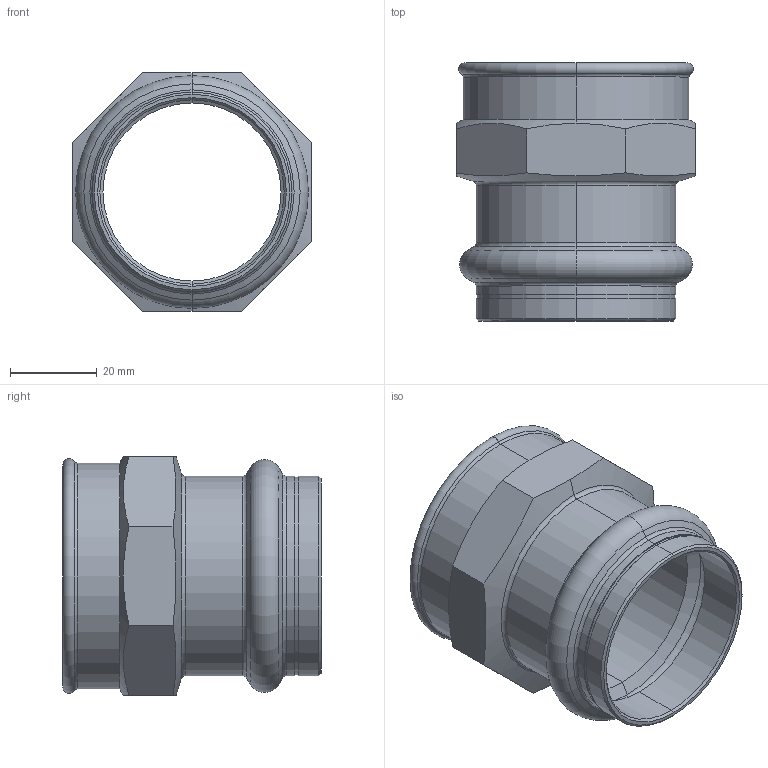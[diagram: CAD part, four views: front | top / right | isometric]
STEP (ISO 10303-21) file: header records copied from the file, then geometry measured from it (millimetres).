
FILE_DESCRIPTION (( 'STEP AP203' ), '1' );
FILE_NAME ('SP4270G Ø42 1 1-2.STEP', '2017-04-26T08:40:26', ( '' ), ( '' ), 'SwSTEP 2.0', 'SolidWorks 2016', '' );
FILE_SCHEMA (( 'CONFIG_CONTROL_DESIGN' ));
Length unit declared in the file: millimetre
Products named in the file (1): SP4270G Ø42 1 1-2
Bounding box: 55 x 59.4 x 55 mm (x, y, z)
Volume: 29968.7 mm3; surface area: 20712.1 mm2
Topology: 1 solids, 1 shells, 65 faces, 140 edges, 80 vertices
Faces by surface type: cone 20, cylinder 18, torus 14, plane 13
Entity records: 1957 total; most frequent: CARTESIAN_POINT 454, DIRECTION 326, ORIENTED_EDGE 280, AXIS2_PLACEMENT_3D 140, EDGE_CURVE 140, VERTEX_POINT 80, CIRCLE 74, EDGE_LOOP 70
